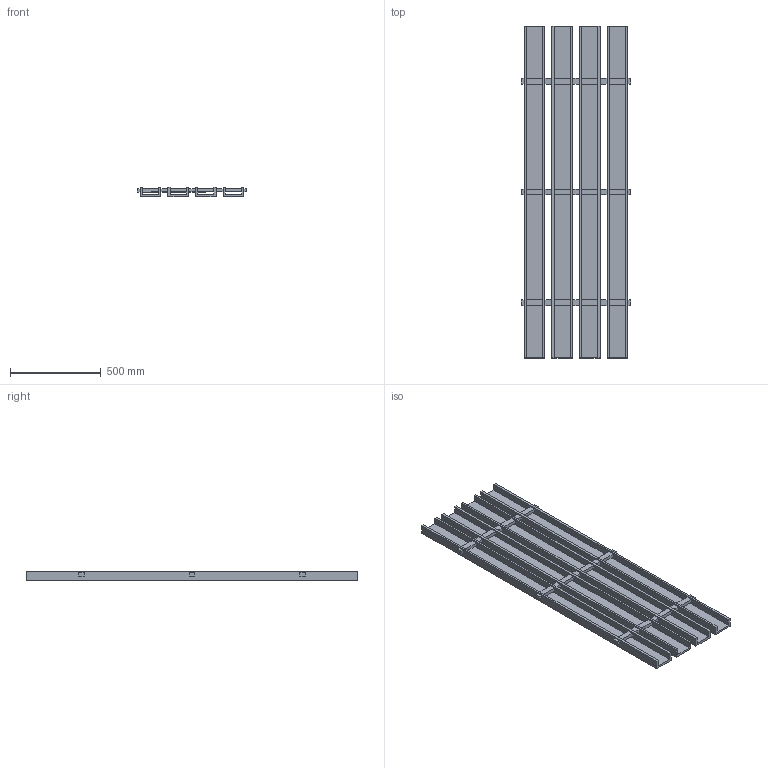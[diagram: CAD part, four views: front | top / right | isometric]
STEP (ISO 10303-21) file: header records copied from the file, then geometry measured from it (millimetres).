
FILE_DESCRIPTION(/* description */ (''),/* implementation_level */ '2;1');
FILE_NAME(/* name */ 'PET GRILLA_4.5x2_6ft',/* time_stamp */ '2024-10-15T14:22:03-05:00',/* author */ (''),/* organization */ (''),/* preprocessor_version */ 'ST-DEVELOPER v19.2',/* originating_system */ 'Rhino 8.4',/* authorisation */ '');
FILE_SCHEMA (('CONFIG_CONTROL_DESIGN'));
Length unit declared in the file: inch
Products named in the file (1): Document
Bounding box: 603.25 x 1828.8 x 50.8 mm (x, y, z)
Volume: 18608279.3 mm3; surface area: 3119751.8 mm2
Topology: 1 solids, 1 shells, 154 faces, 420 edges, 280 vertices
Faces by surface type: plane 154
Entity records: 4350 total; most frequent: CARTESIAN_POINT 1276, ORIENTED_EDGE 840, EDGE_CURVE 420, B_SPLINE_CURVE_WITH_KNOTS 420, VERTEX_POINT 280, EDGE_LOOP 202, DIRECTION 158, AXIS2_PLACEMENT_3D 156
